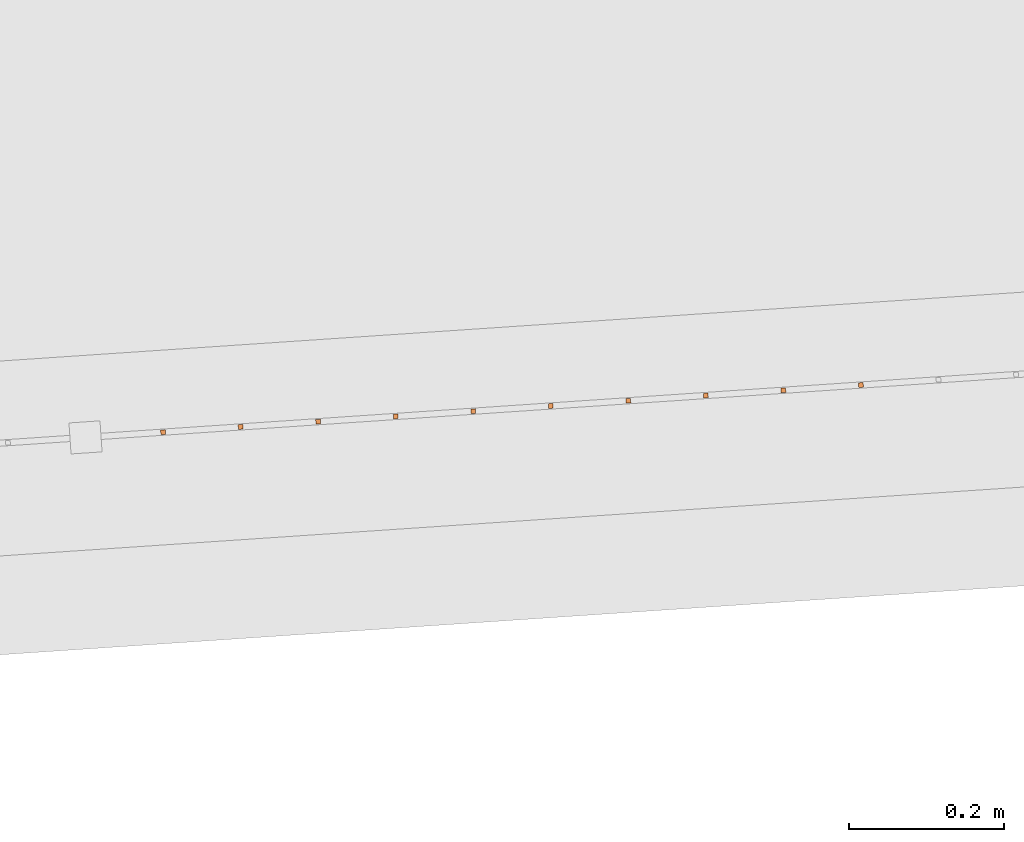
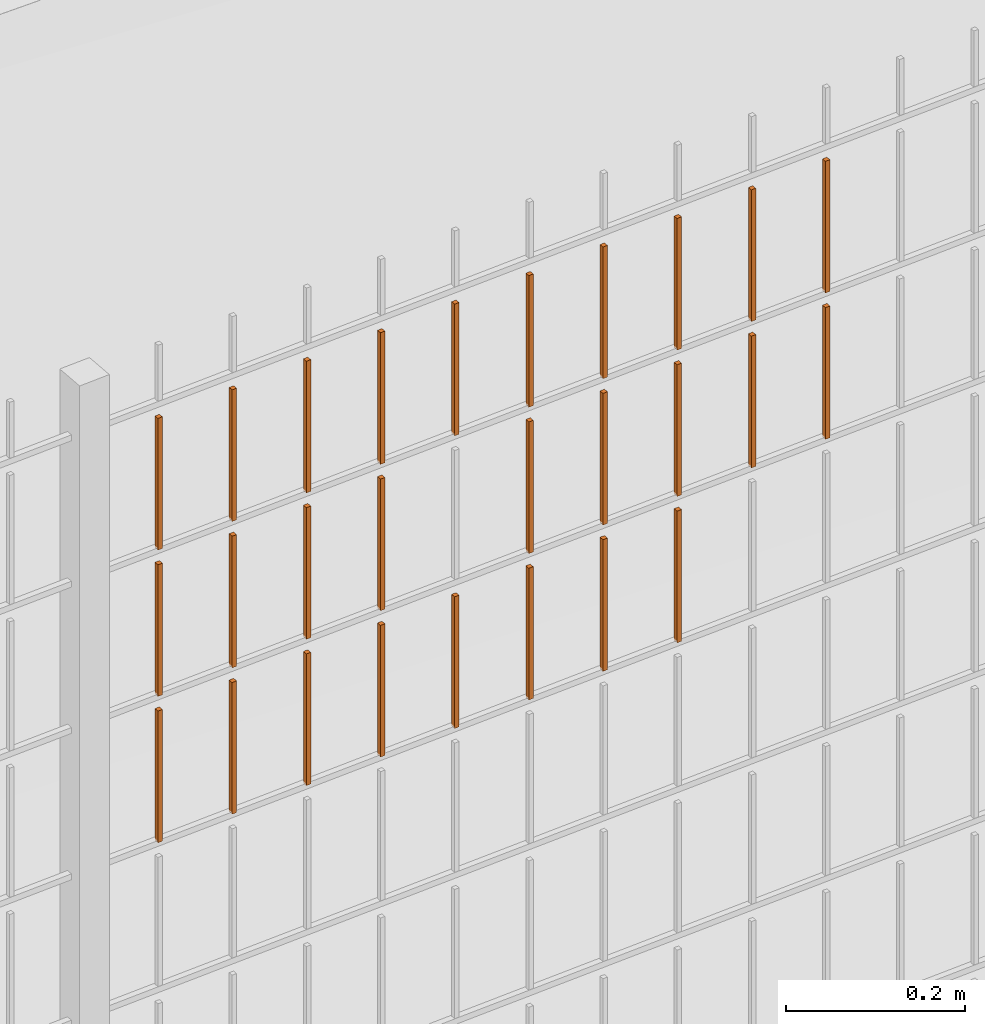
# One storey, part 339 of 1809: 27 proxies, 1 element without a shape of its own.
"""IFC2X3 building model written with IfcOpenShell, lengths in millimetres."""

from ifc_helpers import new_model, entity, si_unit, converted_unit, derived_unit, money_unit, direction, frame, origin_with_axes, place, context, subcontext, project, spatial, faceted_brep, source, transform, mapped, material, type_object, element, aggregate, save


model = new_model("IFC2X3")

# Units and contexts
model_context = context("Model", 3, precision=0.01, world=origin_with_axes(), true_north=direction((0.0, 1.0)))
body_context = subcontext(model_context, "Body", "Model", "MODEL_VIEW")
ifc_project = project(units=[si_unit("LENGTHUNIT", "METRE", prefix="MILLI"), si_unit("AREAUNIT", "SQUARE_METRE"), si_unit("VOLUMEUNIT", "CUBIC_METRE"), converted_unit("PLANEANGLEUNIT", "DEGREE", entity("IfcPlaneAngleMeasure", 0.0174532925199), si_unit("PLANEANGLEUNIT", "RADIAN"), dimensions=[0, 0, 0, 0, 0, 0, 0]), si_unit("SOLIDANGLEUNIT", "STERADIAN"), money_unit("EUR"), converted_unit("TIMEUNIT", "Year", entity("IfcTimeMeasure", 31556926.0), si_unit("TIMEUNIT", "SECOND"), dimensions=[0, 0, 1, 0, 0, 0, 0]), si_unit("MASSUNIT", "GRAM", prefix="KILO"), si_unit("THERMODYNAMICTEMPERATUREUNIT", "DEGREE_CELSIUS"), si_unit("LUMINOUSINTENSITYUNIT", "LUMEN"), si_unit("ENERGYUNIT", "JOULE", prefix="MEGA"), derived_unit("THERMALCONDUCTANCEUNIT", [(si_unit("POWERUNIT", "WATT"), 1), (si_unit("LENGTHUNIT", "METRE"), -1), (si_unit("THERMODYNAMICTEMPERATUREUNIT", "KELVIN"), -1)]), derived_unit("SPECIFICHEATCAPACITYUNIT", [(si_unit("ENERGYUNIT", "JOULE"), 1), (si_unit("MASSUNIT", "GRAM", prefix="KILO"), -1), (si_unit("THERMODYNAMICTEMPERATUREUNIT", "KELVIN"), -1)]), derived_unit("MASSDENSITYUNIT", [(si_unit("MASSUNIT", "GRAM", prefix="KILO"), 1), (si_unit("VOLUMEUNIT", "CUBIC_METRE"), -1)])], contexts=[model_context])

# Site, building, storey
site_placement = place(None, origin_with_axes())
site = spatial("IfcSite", under=ifc_project, at=site_placement, Name="Politse- ja Piirivalveameti ning Päästeameti ühishoone", CompositionType="ELEMENT")
building_placement = place(site_placement, origin_with_axes())
building = spatial("IfcBuilding", under=site, at=building_placement, Name="Politse- ja Piirivalveameti ning Päästeameti ühishoone", CompositionType="ELEMENT")
storey_placement = place(building_placement, origin_with_axes())
storey = spatial("IfcBuildingStorey", under=building, at=storey_placement, Name="Esimene korrus", CompositionType="ELEMENT", Elevation=0.0)

# Proxies
building_element_proxy_type_1 = type_object("IfcBuildingElementProxyType", Name="Railing Type", PredefinedType="NOTDEFINED")
proxy_1_placement = place(storey_placement, frame((89252.001212, -29183.4766571, 203.661247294), z_axis=(0.0, 0.0, 1.0), x_axis=(1.0, 0.0, 0.0)))
proxy_1 = element("IfcBuildingElementProxy", 1, at=proxy_1_placement, inside=storey, type_object=building_element_proxy_type_1, Name="PIIRDEAED")
ifc_material = material(Name="ET-03_Raud")
building_element_proxy_type_2 = type_object("IfcBuildingElementProxyType", Name="IfcBuildingElementProxy", PredefinedType="NOTDEFINED")
shared_shape_1 = source(origin_with_axes(), body_context, "Body", "Brep", [
    faceted_brep([(3.0, 3.0, -0.000752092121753), (-3.0, 3.0, -0.000752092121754), (-3.0, 3.0, 179.99926046), (3.0, 3.0, 179.99926046), (3.0, -3.0, 0.000752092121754), (-3.0, -3.0, 0.000752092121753), (-3.0, -3.0, 180.000764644), (3.0, -3.0, 180.000764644)], [[[0, 1, 2, 3]], [[0, 4, 5, 1]], [[1, 5, 6, 2]], [[3, 2, 6, 7]], [[4, 0, 3, 7]], [[5, 4, 7, 6]]]),
])
proxy_2_placement = place(proxy_1_placement, frame((-32153.4215687, -19469.6170459, 1819.15523947), z_axis=(0.0, 0.0, 1.0), x_axis=(1.0, 0.0, 0.0)))
proxy_2 = element("IfcBuildingElementProxy", 2, at=proxy_2_placement, type_object=building_element_proxy_type_2, material=ifc_material, Name="BALUSTER - 001", context=body_context, shape_type="MappedRepresentation", body=[
    mapped(shared_shape_1, transform((0.0, 0.0, 0.0), x_axis=(-0.0673926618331, 0.997726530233, 0.0), y_axis=(-0.997726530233, -0.0673926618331, 0.0), z_axis=(0.0, 0.0, 1.0))),
])
shared_shape_2 = source(origin_with_axes(), body_context, "Body", "Brep", [
    faceted_brep([(3.0, 3.0, -0.000752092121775), (-3.0, 3.0, -0.000752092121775), (-3.0, 3.0, 179.99926046), (3.0, 3.0, 179.99926046), (3.0, -3.0, 0.000752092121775), (-3.0, -3.0, 0.000752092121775), (-3.0, -3.0, 180.000764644), (3.0, -3.0, 180.000764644)], [[[0, 1, 2, 3]], [[0, 4, 5, 1]], [[1, 5, 6, 2]], [[3, 2, 6, 7]], [[4, 0, 3, 7]], [[5, 4, 7, 6]]]),
])
proxy_3_placement = place(proxy_1_placement, frame((-31255.4676915, -19408.9636503, 1819.3808671), z_axis=(0.0, 0.0, 1.0), x_axis=(1.0, 0.0, 0.0)))
proxy_3 = element("IfcBuildingElementProxy", 3, at=proxy_3_placement, type_object=building_element_proxy_type_2, material=ifc_material, Name="BALUSTER - 001", context=body_context, shape_type="MappedRepresentation", body=[
    mapped(shared_shape_2, transform((0.0, 0.0, 0.0), x_axis=(-0.0673926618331, 0.997726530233, 0.0), y_axis=(-0.997726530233, -0.0673926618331, 0.0), z_axis=(0.0, 0.0, 1.0))),
])
shared_shape_3 = source(origin_with_axes(), body_context, "Body", "Brep", [
    faceted_brep([(3.0, 3.0, -0.000752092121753), (-3.0, 3.0, -0.000752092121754), (-3.0, 3.0, 179.99926046), (3.0, 3.0, 179.99926046), (3.0, -3.0, 0.000752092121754), (-3.0, -3.0, 0.000752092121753), (-3.0, -3.0, 180.000764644), (3.0, -3.0, 180.000764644)], [[[0, 1, 2, 3]], [[0, 4, 5, 1]], [[1, 5, 6, 2]], [[3, 2, 6, 7]], [[4, 0, 3, 7]], [[5, 4, 7, 6]]]),
])
proxy_4_placement = place(proxy_1_placement, frame((-31455.0129975, -19422.4421827, 1819.33072763), z_axis=(0.0, 0.0, 1.0), x_axis=(1.0, 0.0, 0.0)))
proxy_4 = element("IfcBuildingElementProxy", 4, at=proxy_4_placement, type_object=building_element_proxy_type_2, material=ifc_material, Name="BALUSTER - 001", context=body_context, shape_type="MappedRepresentation", body=[
    mapped(shared_shape_3, transform((0.0, 0.0, 0.0), x_axis=(-0.0673926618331, 0.997726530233, 0.0), y_axis=(-0.997726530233, -0.0673926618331, 0.0), z_axis=(0.0, 0.0, 1.0))),
])
shared_shape_4 = source(origin_with_axes(), body_context, "Body", "Brep", [
    faceted_brep([(3.0, 3.0, -0.000752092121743), (-3.0, 3.0, -0.000752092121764), (-3.0, 3.0, 179.99926046), (3.0, 3.0, 179.99926046), (3.0, -3.0, 0.000752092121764), (-3.0, -3.0, 0.000752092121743), (-3.0, -3.0, 180.000764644), (3.0, -3.0, 180.000764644)], [[[0, 1, 2, 3]], [[0, 4, 5, 1]], [[1, 5, 6, 2]], [[3, 2, 6, 7]], [[4, 0, 3, 7]], [[5, 4, 7, 6]]]),
])
proxy_5_placement = place(proxy_1_placement, frame((-31554.7856505, -19429.1814488, 1819.30565789), z_axis=(0.0, 0.0, 1.0), x_axis=(1.0, 0.0, 0.0)))
proxy_5 = element("IfcBuildingElementProxy", 5, at=proxy_5_placement, type_object=building_element_proxy_type_2, material=ifc_material, Name="BALUSTER - 001", context=body_context, shape_type="MappedRepresentation", body=[
    mapped(shared_shape_4, transform((0.0, 0.0, 0.0), x_axis=(-0.0673926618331, 0.997726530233, 0.0), y_axis=(-0.997726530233, -0.0673926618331, 0.0), z_axis=(0.0, 0.0, 1.0))),
])
shared_shape_5 = source(origin_with_axes(), body_context, "Body", "Brep", [
    faceted_brep([(3.0, 3.0, -0.000752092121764), (-3.0, 3.0, -0.000752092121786), (-3.0, 3.0, 179.99926046), (3.0, 3.0, 179.99926046), (3.0, -3.0, 0.000752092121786), (-3.0, -3.0, 0.000752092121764), (-3.0, -3.0, 180.000764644), (3.0, -3.0, 180.000764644)], [[[0, 1, 2, 3]], [[0, 4, 5, 1]], [[1, 5, 6, 2]], [[3, 2, 6, 7]], [[4, 0, 3, 7]], [[5, 4, 7, 6]]]),
])
proxy_6_placement = place(proxy_1_placement, frame((-31355.2403445, -19415.7029165, 1619.35579737), z_axis=(0.0, 0.0, 1.0), x_axis=(1.0, 0.0, 0.0)))
proxy_6 = element("IfcBuildingElementProxy", 6, at=proxy_6_placement, type_object=building_element_proxy_type_2, material=ifc_material, Name="BALUSTER - 001", context=body_context, shape_type="MappedRepresentation", body=[
    mapped(shared_shape_5, transform((0.0, 0.0, 0.0), x_axis=(-0.0673926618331, 0.997726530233, 0.0), y_axis=(-0.997726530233, -0.0673926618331, 0.0), z_axis=(0.0, 0.0, 1.0))),
])
shared_shape_6 = source(origin_with_axes(), body_context, "Body", "Brep", [
    faceted_brep([(3.0, 3.0, -0.000752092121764), (-3.0, 3.0, -0.000752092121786), (-3.0, 3.0, 179.99926046), (3.0, 3.0, 179.99926046), (3.0, -3.0, 0.000752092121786), (-3.0, -3.0, 0.000752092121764), (-3.0, -3.0, 180.000764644), (3.0, -3.0, 180.000764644)], [[[0, 1, 2, 3]], [[0, 4, 5, 1]], [[1, 5, 6, 2]], [[3, 2, 6, 7]], [[4, 0, 3, 7]], [[5, 4, 7, 6]]]),
])
proxy_7_placement = place(proxy_1_placement, frame((-31355.2403445, -19415.7029165, 1819.35579737), z_axis=(0.0, 0.0, 1.0), x_axis=(1.0, 0.0, 0.0)))
proxy_7 = element("IfcBuildingElementProxy", 7, at=proxy_7_placement, type_object=building_element_proxy_type_2, material=ifc_material, Name="BALUSTER - 001", context=body_context, shape_type="MappedRepresentation", body=[
    mapped(shared_shape_6, transform((0.0, 0.0, 0.0), x_axis=(-0.0673926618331, 0.997726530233, 0.0), y_axis=(-0.997726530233, -0.0673926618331, 0.0), z_axis=(0.0, 0.0, 1.0))),
])
shared_shape_7 = source(origin_with_axes(), body_context, "Body", "Brep", [
    faceted_brep([(3.0, 3.0, -0.000752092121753), (-3.0, 3.0, -0.000752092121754), (-3.0, 3.0, 179.99926046), (3.0, 3.0, 179.99926046), (3.0, -3.0, 0.000752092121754), (-3.0, -3.0, 0.000752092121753), (-3.0, -3.0, 180.000764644), (3.0, -3.0, 180.000764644)], [[[0, 1, 2, 3]], [[0, 4, 5, 1]], [[1, 5, 6, 2]], [[3, 2, 6, 7]], [[4, 0, 3, 7]], [[5, 4, 7, 6]]]),
])
proxy_8_placement = place(proxy_1_placement, frame((-31455.0129975, -19422.4421827, 1419.33072763), z_axis=(0.0, 0.0, 1.0), x_axis=(1.0, 0.0, 0.0)))
proxy_8 = element("IfcBuildingElementProxy", 8, at=proxy_8_placement, type_object=building_element_proxy_type_2, material=ifc_material, Name="BALUSTER - 001", context=body_context, shape_type="MappedRepresentation", body=[
    mapped(shared_shape_7, transform((0.0, 0.0, 0.0), x_axis=(-0.0673926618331, 0.997726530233, 0.0), y_axis=(-0.997726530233, -0.0673926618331, 0.0), z_axis=(0.0, 0.0, 1.0))),
])
proxy_9_placement = place(proxy_1_placement, frame((-31455.0129975, -19422.4421827, 1619.33072763), z_axis=(0.0, 0.0, 1.0), x_axis=(1.0, 0.0, 0.0)))
proxy_9 = element("IfcBuildingElementProxy", 9, at=proxy_9_placement, type_object=building_element_proxy_type_2, material=ifc_material, Name="BALUSTER - 001", context=body_context, shape_type="MappedRepresentation", body=[
    mapped(shared_shape_7, transform((0.0, 0.0, 0.0), x_axis=(-0.0673926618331, 0.997726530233, 0.0), y_axis=(-0.997726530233, -0.0673926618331, 0.0), z_axis=(0.0, 0.0, 1.0))),
])
shared_shape_8 = source(origin_with_axes(), body_context, "Body", "Brep", [
    faceted_brep([(3.0, 3.0, -0.000752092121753), (-3.0, 3.0, -0.000752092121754), (-3.0, 3.0, 179.99926046), (3.0, 3.0, 179.99926046), (3.0, -3.0, 0.000752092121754), (-3.0, -3.0, 0.000752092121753), (-3.0, -3.0, 180.000764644), (3.0, -3.0, 180.000764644)], [[[0, 1, 2, 3]], [[0, 4, 5, 1]], [[1, 5, 6, 2]], [[3, 2, 6, 7]], [[4, 0, 3, 7]], [[5, 4, 7, 6]]]),
])
proxy_10_placement = place(proxy_1_placement, frame((-32153.4215687, -19469.6170459, 1419.15523947), z_axis=(0.0, 0.0, 1.0), x_axis=(1.0, 0.0, 0.0)))
proxy_10 = element("IfcBuildingElementProxy", 10, at=proxy_10_placement, type_object=building_element_proxy_type_2, material=ifc_material, Name="BALUSTER - 001", context=body_context, shape_type="MappedRepresentation", body=[
    mapped(shared_shape_8, transform((0.0, 0.0, 0.0), x_axis=(-0.0673926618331, 0.997726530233, 0.0), y_axis=(-0.997726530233, -0.0673926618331, 0.0), z_axis=(0.0, 0.0, 1.0))),
])
proxy_11_placement = place(proxy_1_placement, frame((-32153.4215687, -19469.6170459, 1619.15523947), z_axis=(0.0, 0.0, 1.0), x_axis=(1.0, 0.0, 0.0)))
proxy_11 = element("IfcBuildingElementProxy", 11, at=proxy_11_placement, type_object=building_element_proxy_type_2, material=ifc_material, Name="BALUSTER - 001", context=body_context, shape_type="MappedRepresentation", body=[
    mapped(shared_shape_8, transform((0.0, 0.0, 0.0), x_axis=(-0.0673926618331, 0.997726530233, 0.0), y_axis=(-0.997726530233, -0.0673926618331, 0.0), z_axis=(0.0, 0.0, 1.0))),
])
shared_shape_9 = source(origin_with_axes(), body_context, "Body", "Brep", [
    faceted_brep([(3.0, 3.0, -0.000752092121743), (-3.0, 3.0, -0.000752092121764), (-3.0, 3.0, 179.99926046), (3.0, 3.0, 179.99926046), (3.0, -3.0, 0.000752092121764), (-3.0, -3.0, 0.000752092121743), (-3.0, -3.0, 180.000764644), (3.0, -3.0, 180.000764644)], [[[0, 1, 2, 3]], [[0, 4, 5, 1]], [[1, 5, 6, 2]], [[3, 2, 6, 7]], [[4, 0, 3, 7]], [[5, 4, 7, 6]]]),
])
proxy_12_placement = place(proxy_1_placement, frame((-31554.7856505, -19429.1814488, 1419.30565789), z_axis=(0.0, 0.0, 1.0), x_axis=(1.0, 0.0, 0.0)))
proxy_12 = element("IfcBuildingElementProxy", 12, at=proxy_12_placement, type_object=building_element_proxy_type_2, material=ifc_material, Name="BALUSTER - 001", context=body_context, shape_type="MappedRepresentation", body=[
    mapped(shared_shape_9, transform((0.0, 0.0, 0.0), x_axis=(-0.0673926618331, 0.997726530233, 0.0), y_axis=(-0.997726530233, -0.0673926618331, 0.0), z_axis=(0.0, 0.0, 1.0))),
])
proxy_13_placement = place(proxy_1_placement, frame((-31554.7856505, -19429.1814488, 1619.30565789), z_axis=(0.0, 0.0, 1.0), x_axis=(1.0, 0.0, 0.0)))
proxy_13 = element("IfcBuildingElementProxy", 13, at=proxy_13_placement, type_object=building_element_proxy_type_2, material=ifc_material, Name="BALUSTER - 001", context=body_context, shape_type="MappedRepresentation", body=[
    mapped(shared_shape_9, transform((0.0, 0.0, 0.0), x_axis=(-0.0673926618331, 0.997726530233, 0.0), y_axis=(-0.997726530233, -0.0673926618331, 0.0), z_axis=(0.0, 0.0, 1.0))),
])
shared_shape_10 = source(origin_with_axes(), body_context, "Body", "Brep", [
    faceted_brep([(3.0, 3.0, -0.000752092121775), (-3.0, 3.0, -0.000752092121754), (-3.0, 3.0, 179.99926046), (3.0, 3.0, 179.99926046), (3.0, -3.0, 0.000752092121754), (-3.0, -3.0, 0.000752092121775), (-3.0, -3.0, 180.000764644), (3.0, -3.0, 180.000764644)], [[[0, 1, 2, 3]], [[0, 4, 5, 1]], [[1, 5, 6, 2]], [[3, 2, 6, 7]], [[4, 0, 3, 7]], [[5, 4, 7, 6]]]),
])
proxy_14_placement = place(proxy_1_placement, frame((-31754.3309566, -19442.6599812, 1819.25551842), z_axis=(0.0, 0.0, 1.0), x_axis=(1.0, 0.0, 0.0)))
proxy_14 = element("IfcBuildingElementProxy", 14, at=proxy_14_placement, type_object=building_element_proxy_type_2, material=ifc_material, Name="BALUSTER - 001", context=body_context, shape_type="MappedRepresentation", body=[
    mapped(shared_shape_10, transform((0.0, 0.0, 0.0), x_axis=(-0.0673926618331, 0.997726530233, 0.0), y_axis=(-0.997726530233, -0.0673926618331, 0.0), z_axis=(0.0, 0.0, 1.0))),
])
shared_shape_11 = source(origin_with_axes(), body_context, "Body", "Brep", [
    faceted_brep([(3.0, 3.0, -0.000752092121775), (-3.0, 3.0, -0.000752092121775), (-3.0, 3.0, 179.99926046), (3.0, 3.0, 179.99926046), (3.0, -3.0, 0.000752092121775), (-3.0, -3.0, 0.000752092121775), (-3.0, -3.0, 180.000764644), (3.0, -3.0, 180.000764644)], [[[0, 1, 2, 3]], [[0, 4, 5, 1]], [[1, 5, 6, 2]], [[3, 2, 6, 7]], [[4, 0, 3, 7]], [[5, 4, 7, 6]]]),
])
proxy_15_placement = place(proxy_1_placement, frame((-31255.4676915, -19408.9636503, 1619.3808671), z_axis=(0.0, 0.0, 1.0), x_axis=(1.0, 0.0, 0.0)))
proxy_15 = element("IfcBuildingElementProxy", 15, at=proxy_15_placement, type_object=building_element_proxy_type_2, material=ifc_material, Name="BALUSTER - 001", context=body_context, shape_type="MappedRepresentation", body=[
    mapped(shared_shape_11, transform((0.0, 0.0, 0.0), x_axis=(-0.0673926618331, 0.997726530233, 0.0), y_axis=(-0.997726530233, -0.0673926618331, 0.0), z_axis=(0.0, 0.0, 1.0))),
])
shared_shape_12 = source(origin_with_axes(), body_context, "Body", "Brep", [
    faceted_brep([(3.0, 3.0, -0.000752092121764), (-3.0, 3.0, -0.000752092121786), (-3.0, 3.0, 179.99926046), (3.0, 3.0, 179.99926046), (3.0, -3.0, 0.000752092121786), (-3.0, -3.0, 0.000752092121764), (-3.0, -3.0, 180.000764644), (3.0, -3.0, 180.000764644)], [[[0, 1, 2, 3]], [[0, 4, 5, 1]], [[1, 5, 6, 2]], [[3, 2, 6, 7]], [[4, 0, 3, 7]], [[5, 4, 7, 6]]]),
])
proxy_16_placement = place(proxy_1_placement, frame((-31854.1036096, -19449.3992474, 1819.23044868), z_axis=(0.0, 0.0, 1.0), x_axis=(1.0, 0.0, 0.0)))
proxy_16 = element("IfcBuildingElementProxy", 16, at=proxy_16_placement, type_object=building_element_proxy_type_2, material=ifc_material, Name="BALUSTER - 001", context=body_context, shape_type="MappedRepresentation", body=[
    mapped(shared_shape_12, transform((0.0, 0.0, 0.0), x_axis=(-0.0673926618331, 0.997726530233, 0.0), y_axis=(-0.997726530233, -0.0673926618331, 0.0), z_axis=(0.0, 0.0, 1.0))),
])
shared_shape_13 = source(origin_with_axes(), body_context, "Body", "Brep", [
    faceted_brep([(3.0, 3.0, -0.000752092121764), (-3.0, 3.0, -0.000752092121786), (-3.0, 3.0, 179.99926046), (3.0, 3.0, 179.99926046), (3.0, -3.0, 0.000752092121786), (-3.0, -3.0, 0.000752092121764), (-3.0, -3.0, 180.000764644), (3.0, -3.0, 180.000764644)], [[[0, 1, 2, 3]], [[0, 4, 5, 1]], [[1, 5, 6, 2]], [[3, 2, 6, 7]], [[4, 0, 3, 7]], [[5, 4, 7, 6]]]),
])
proxy_17_placement = place(proxy_1_placement, frame((-31654.5583036, -19435.920715, 1819.28058815), z_axis=(0.0, 0.0, 1.0), x_axis=(1.0, 0.0, 0.0)))
proxy_17 = element("IfcBuildingElementProxy", 17, at=proxy_17_placement, type_object=building_element_proxy_type_2, material=ifc_material, Name="BALUSTER - 001", context=body_context, shape_type="MappedRepresentation", body=[
    mapped(shared_shape_13, transform((0.0, 0.0, 0.0), x_axis=(-0.0673926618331, 0.997726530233, 0.0), y_axis=(-0.997726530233, -0.0673926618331, 0.0), z_axis=(0.0, 0.0, 1.0))),
])
shared_shape_14 = source(origin_with_axes(), body_context, "Body", "Brep", [
    faceted_brep([(3.0, 3.0, -0.000752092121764), (-3.0, 3.0, -0.000752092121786), (-3.0, 3.0, 179.99926046), (3.0, 3.0, 179.99926046), (3.0, -3.0, 0.000752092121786), (-3.0, -3.0, 0.000752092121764), (-3.0, -3.0, 180.000764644), (3.0, -3.0, 180.000764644)], [[[0, 1, 2, 3]], [[0, 4, 5, 1]], [[1, 5, 6, 2]], [[3, 2, 6, 7]], [[4, 0, 3, 7]], [[5, 4, 7, 6]]]),
])
proxy_18_placement = place(proxy_1_placement, frame((-31654.5583036, -19435.920715, 1619.28058815), z_axis=(0.0, 0.0, 1.0), x_axis=(1.0, 0.0, 0.0)))
proxy_18 = element("IfcBuildingElementProxy", 18, at=proxy_18_placement, type_object=building_element_proxy_type_2, material=ifc_material, Name="BALUSTER - 001", context=body_context, shape_type="MappedRepresentation", body=[
    mapped(shared_shape_14, transform((0.0, 0.0, 0.0), x_axis=(-0.0673926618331, 0.997726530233, 0.0), y_axis=(-0.997726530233, -0.0673926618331, 0.0), z_axis=(0.0, 0.0, 1.0))),
])
shared_shape_15 = source(origin_with_axes(), body_context, "Body", "Brep", [
    faceted_brep([(3.0, 3.0, -0.000752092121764), (-3.0, 3.0, -0.000752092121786), (-3.0, 3.0, 179.99926046), (3.0, 3.0, 179.99926046), (3.0, -3.0, 0.000752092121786), (-3.0, -3.0, 0.000752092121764), (-3.0, -3.0, 180.000764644), (3.0, -3.0, 180.000764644)], [[[0, 1, 2, 3]], [[0, 4, 5, 1]], [[1, 5, 6, 2]], [[3, 2, 6, 7]], [[4, 0, 3, 7]], [[5, 4, 7, 6]]]),
])
proxy_19_placement = place(proxy_1_placement, frame((-32053.6489157, -19462.8777798, 1819.1803092), z_axis=(0.0, 0.0, 1.0), x_axis=(1.0, 0.0, 0.0)))
proxy_19 = element("IfcBuildingElementProxy", 19, at=proxy_19_placement, type_object=building_element_proxy_type_2, material=ifc_material, Name="BALUSTER - 001", context=body_context, shape_type="MappedRepresentation", body=[
    mapped(shared_shape_15, transform((0.0, 0.0, 0.0), x_axis=(-0.0673926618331, 0.997726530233, 0.0), y_axis=(-0.997726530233, -0.0673926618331, 0.0), z_axis=(0.0, 0.0, 1.0))),
])
shared_shape_16 = source(origin_with_axes(), body_context, "Body", "Brep", [
    faceted_brep([(3.0, 3.0, -0.000752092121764), (-3.0, 3.0, -0.000752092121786), (-3.0, 3.0, 179.99926046), (3.0, 3.0, 179.99926046), (3.0, -3.0, 0.000752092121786), (-3.0, -3.0, 0.000752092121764), (-3.0, -3.0, 180.000764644), (3.0, -3.0, 180.000764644)], [[[0, 1, 2, 3]], [[0, 4, 5, 1]], [[1, 5, 6, 2]], [[3, 2, 6, 7]], [[4, 0, 3, 7]], [[5, 4, 7, 6]]]),
])
proxy_20_placement = place(proxy_1_placement, frame((-31854.1036096, -19449.3992474, 1419.23044868), z_axis=(0.0, 0.0, 1.0), x_axis=(1.0, 0.0, 0.0)))
proxy_20 = element("IfcBuildingElementProxy", 20, at=proxy_20_placement, type_object=building_element_proxy_type_2, material=ifc_material, Name="BALUSTER - 001", context=body_context, shape_type="MappedRepresentation", body=[
    mapped(shared_shape_16, transform((0.0, 0.0, 0.0), x_axis=(-0.0673926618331, 0.997726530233, 0.0), y_axis=(-0.997726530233, -0.0673926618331, 0.0), z_axis=(0.0, 0.0, 1.0))),
])
proxy_21_placement = place(proxy_1_placement, frame((-31854.1036096, -19449.3992474, 1619.23044868), z_axis=(0.0, 0.0, 1.0), x_axis=(1.0, 0.0, 0.0)))
proxy_21 = element("IfcBuildingElementProxy", 21, at=proxy_21_placement, type_object=building_element_proxy_type_2, material=ifc_material, Name="BALUSTER - 001", context=body_context, shape_type="MappedRepresentation", body=[
    mapped(shared_shape_16, transform((0.0, 0.0, 0.0), x_axis=(-0.0673926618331, 0.997726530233, 0.0), y_axis=(-0.997726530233, -0.0673926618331, 0.0), z_axis=(0.0, 0.0, 1.0))),
])
shared_shape_17 = source(origin_with_axes(), body_context, "Body", "Brep", [
    faceted_brep([(3.0, 3.0, -0.000752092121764), (-3.0, 3.0, -0.000752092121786), (-3.0, 3.0, 179.99926046), (3.0, 3.0, 179.99926046), (3.0, -3.0, 0.000752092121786), (-3.0, -3.0, 0.000752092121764), (-3.0, -3.0, 180.000764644), (3.0, -3.0, 180.000764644)], [[[0, 1, 2, 3]], [[0, 4, 5, 1]], [[1, 5, 6, 2]], [[3, 2, 6, 7]], [[4, 0, 3, 7]], [[5, 4, 7, 6]]]),
])
proxy_22_placement = place(proxy_1_placement, frame((-32053.6489157, -19462.8777798, 1419.1803092), z_axis=(0.0, 0.0, 1.0), x_axis=(1.0, 0.0, 0.0)))
proxy_22 = element("IfcBuildingElementProxy", 22, at=proxy_22_placement, type_object=building_element_proxy_type_2, material=ifc_material, Name="BALUSTER - 001", context=body_context, shape_type="MappedRepresentation", body=[
    mapped(shared_shape_17, transform((0.0, 0.0, 0.0), x_axis=(-0.0673926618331, 0.997726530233, 0.0), y_axis=(-0.997726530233, -0.0673926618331, 0.0), z_axis=(0.0, 0.0, 1.0))),
])
shared_shape_18 = source(origin_with_axes(), body_context, "Body", "Brep", [
    faceted_brep([(3.0, 3.0, -0.000752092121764), (-3.0, 3.0, -0.000752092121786), (-3.0, 3.0, 179.99926046), (3.0, 3.0, 179.99926046), (3.0, -3.0, 0.000752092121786), (-3.0, -3.0, 0.000752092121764), (-3.0, -3.0, 180.000764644), (3.0, -3.0, 180.000764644)], [[[0, 1, 2, 3]], [[0, 4, 5, 1]], [[1, 5, 6, 2]], [[3, 2, 6, 7]], [[4, 0, 3, 7]], [[5, 4, 7, 6]]]),
])
proxy_23_placement = place(proxy_1_placement, frame((-31654.5583036, -19435.920715, 1419.28058815), z_axis=(0.0, 0.0, 1.0), x_axis=(1.0, 0.0, 0.0)))
proxy_23 = element("IfcBuildingElementProxy", 23, at=proxy_23_placement, type_object=building_element_proxy_type_2, material=ifc_material, Name="BALUSTER - 001", context=body_context, shape_type="MappedRepresentation", body=[
    mapped(shared_shape_18, transform((0.0, 0.0, 0.0), x_axis=(-0.0673926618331, 0.997726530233, 0.0), y_axis=(-0.997726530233, -0.0673926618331, 0.0), z_axis=(0.0, 0.0, 1.0))),
])
shared_shape_19 = source(origin_with_axes(), body_context, "Body", "Brep", [
    faceted_brep([(3.0, 3.0, -0.000752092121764), (-3.0, 3.0, -0.000752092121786), (-3.0, 3.0, 179.99926046), (3.0, 3.0, 179.99926046), (3.0, -3.0, 0.000752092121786), (-3.0, -3.0, 0.000752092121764), (-3.0, -3.0, 180.000764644), (3.0, -3.0, 180.000764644)], [[[0, 1, 2, 3]], [[0, 4, 5, 1]], [[1, 5, 6, 2]], [[3, 2, 6, 7]], [[4, 0, 3, 7]], [[5, 4, 7, 6]]]),
])
proxy_24_placement = place(proxy_1_placement, frame((-32053.6489157, -19462.8777798, 1619.1803092), z_axis=(0.0, 0.0, 1.0), x_axis=(1.0, 0.0, 0.0)))
proxy_24 = element("IfcBuildingElementProxy", 24, at=proxy_24_placement, type_object=building_element_proxy_type_2, material=ifc_material, Name="BALUSTER - 001", context=body_context, shape_type="MappedRepresentation", body=[
    mapped(shared_shape_19, transform((0.0, 0.0, 0.0), x_axis=(-0.0673926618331, 0.997726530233, 0.0), y_axis=(-0.997726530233, -0.0673926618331, 0.0), z_axis=(0.0, 0.0, 1.0))),
])
shared_shape_20 = source(origin_with_axes(), body_context, "Body", "Brep", [
    faceted_brep([(3.0, 3.0, -0.000752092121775), (-3.0, 3.0, -0.000752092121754), (-3.0, 3.0, 179.99926046), (3.0, 3.0, 179.99926046), (3.0, -3.0, 0.000752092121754), (-3.0, -3.0, 0.000752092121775), (-3.0, -3.0, 180.000764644), (3.0, -3.0, 180.000764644)], [[[0, 1, 2, 3]], [[0, 4, 5, 1]], [[1, 5, 6, 2]], [[3, 2, 6, 7]], [[4, 0, 3, 7]], [[5, 4, 7, 6]]]),
])
proxy_25_placement = place(proxy_1_placement, frame((-31754.3309566, -19442.6599812, 1419.25551842), z_axis=(0.0, 0.0, 1.0), x_axis=(1.0, 0.0, 0.0)))
proxy_25 = element("IfcBuildingElementProxy", 25, at=proxy_25_placement, type_object=building_element_proxy_type_2, material=ifc_material, Name="BALUSTER - 001", context=body_context, shape_type="MappedRepresentation", body=[
    mapped(shared_shape_20, transform((0.0, 0.0, 0.0), x_axis=(-0.0673926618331, 0.997726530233, 0.0), y_axis=(-0.997726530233, -0.0673926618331, 0.0), z_axis=(0.0, 0.0, 1.0))),
])
shared_shape_21 = source(origin_with_axes(), body_context, "Body", "Brep", [
    faceted_brep([(3.0, 3.0, -0.000752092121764), (-3.0, 3.0, -0.000752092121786), (-3.0, 3.0, 179.99926046), (3.0, 3.0, 179.99926046), (3.0, -3.0, 0.000752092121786), (-3.0, -3.0, 0.000752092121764), (-3.0, -3.0, 180.000764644), (3.0, -3.0, 180.000764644)], [[[0, 1, 2, 3]], [[0, 4, 5, 1]], [[1, 5, 6, 2]], [[3, 2, 6, 7]], [[4, 0, 3, 7]], [[5, 4, 7, 6]]]),
])
proxy_26_placement = place(proxy_1_placement, frame((-31953.8762626, -19456.1385136, 1419.20537894), z_axis=(0.0, 0.0, 1.0), x_axis=(1.0, 0.0, 0.0)))
proxy_26 = element("IfcBuildingElementProxy", 26, at=proxy_26_placement, type_object=building_element_proxy_type_2, material=ifc_material, Name="BALUSTER - 001", context=body_context, shape_type="MappedRepresentation", body=[
    mapped(shared_shape_21, transform((0.0, 0.0, 0.0), x_axis=(-0.0673926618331, 0.997726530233, 0.0), y_axis=(-0.997726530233, -0.0673926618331, 0.0), z_axis=(0.0, 0.0, 1.0))),
])
proxy_27_placement = place(proxy_1_placement, frame((-31953.8762626, -19456.1385136, 1619.20537894), z_axis=(0.0, 0.0, 1.0), x_axis=(1.0, 0.0, 0.0)))
proxy_27 = element("IfcBuildingElementProxy", 27, at=proxy_27_placement, type_object=building_element_proxy_type_2, material=ifc_material, Name="BALUSTER - 001", context=body_context, shape_type="MappedRepresentation", body=[
    mapped(shared_shape_21, transform((0.0, 0.0, 0.0), x_axis=(-0.0673926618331, 0.997726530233, 0.0), y_axis=(-0.997726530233, -0.0673926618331, 0.0), z_axis=(0.0, 0.0, 1.0))),
])
shared_shape_22 = source(origin_with_axes(), body_context, "Body", "Brep", [
    faceted_brep([(3.0, 3.0, -0.000752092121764), (-3.0, 3.0, -0.000752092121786), (-3.0, 3.0, 179.99926046), (3.0, 3.0, 179.99926046), (3.0, -3.0, 0.000752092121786), (-3.0, -3.0, 0.000752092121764), (-3.0, -3.0, 180.000764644), (3.0, -3.0, 180.000764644)], [[[0, 1, 2, 3]], [[0, 4, 5, 1]], [[1, 5, 6, 2]], [[3, 2, 6, 7]], [[4, 0, 3, 7]], [[5, 4, 7, 6]]]),
])
proxy_28_placement = place(proxy_1_placement, frame((-31953.8762626, -19456.1385136, 1819.20537894), z_axis=(0.0, 0.0, 1.0), x_axis=(1.0, 0.0, 0.0)))
proxy_28 = element("IfcBuildingElementProxy", 28, at=proxy_28_placement, type_object=building_element_proxy_type_2, material=ifc_material, Name="BALUSTER - 001", context=body_context, shape_type="MappedRepresentation", body=[
    mapped(shared_shape_22, transform((0.0, 0.0, 0.0), x_axis=(-0.0673926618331, 0.997726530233, 0.0), y_axis=(-0.997726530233, -0.0673926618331, 0.0), z_axis=(0.0, 0.0, 1.0))),
])
aggregate(proxy_1, [proxy_8, proxy_12, proxy_23, proxy_25, proxy_20, proxy_26, proxy_22, proxy_10, proxy_15, proxy_6, proxy_9, proxy_13, proxy_18, proxy_21, proxy_27, proxy_24, proxy_11, proxy_3, proxy_7, proxy_4, proxy_5, proxy_17, proxy_14, proxy_16, proxy_28, proxy_19, proxy_2])

save(model, "model.ifc")
